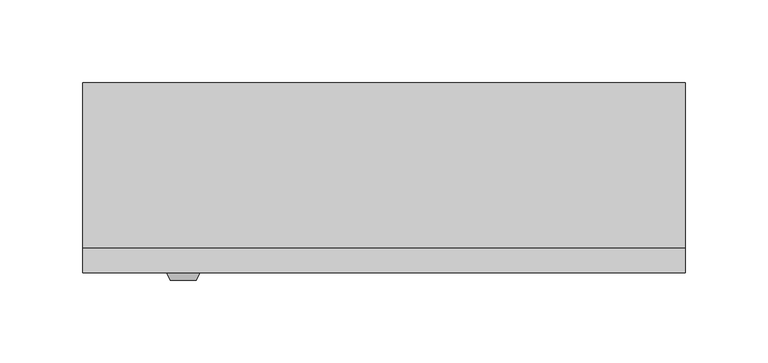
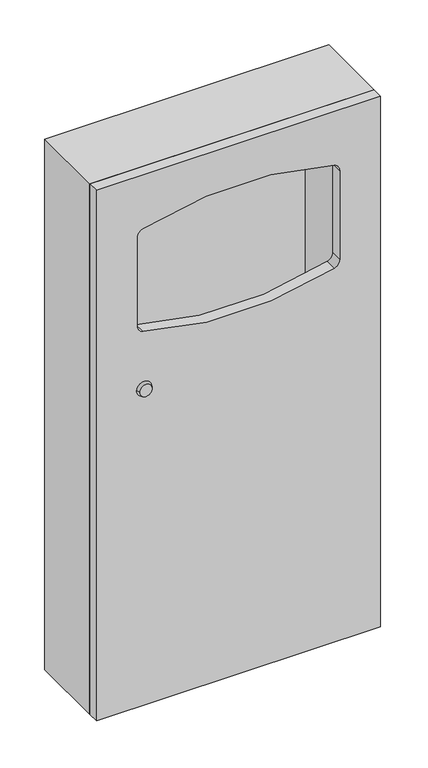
"""IFC4 building model written with IfcOpenShell, lengths in millimetres: proxy geometry, Waste_Metlam_Surface Mounted_9L : 365w x 115d x 720h (ML710R_SM_MK2)."""

from ifc_helpers import new_model, si_unit, point, frame, frame_2d, origin, place, context, project, spatial, polyline, circle_curve, trimmed, segment, composite_curve, outline, extrude, faceted_brep, source, transform, mapped, element, save
from ifc_brep_helpers import plane_surface, revolved_surface, advanced_brep


def specialty_equipment_d6a71a56(model_context):
    return source(origin(), model_context, "Body", "SolidModel", [
        faceted_brep([(180.5, -2.0, 1648.0), (-180.5, -2.0, 1648.0), (-180.5, -2.0, 932.0), (180.5, -2.0, 932.0), (-152.5, -2.0, 957.5), (-152.5, -2.0, 1622.5), (152.5, -2.0, 1622.5), (152.5, -2.0, 957.5), (150.5, -2.0, 1620.5), (-150.5, -2.0, 1620.5), (-150.5, -2.0, 959.5), (150.5, -2.0, 959.5), (182.5, 0.0, 1650.0), (182.5, 0.0, 930.0), (-182.5, 0.0, 930.0), (-182.5, 0.0, 1650.0), (-182.5, -100.0, 1650.0), (182.5, -100.0, 1650.0), (-182.5, -100.0, 930.0), (182.5, -100.0, 930.0), (-180.5, -100.0, 1648.0), (180.5, -100.0, 1648.0), (180.5, -100.0, 932.0), (-180.5, -100.0, 932.0), (-152.5, -100.0, 1622.5), (-152.5, -100.0, 957.5), (152.5, -100.0, 957.5), (152.5, -100.0, 1622.5), (-150.5, -100.0, 1620.5), (150.5, -100.0, 1620.5), (150.5, -100.0, 959.5), (-150.5, -100.0, 959.5)], [[[0, 1, 2, 3], [4, 5, 6, 7]], [[8, 9, 10, 11]], [[12, 13, 14, 15]], [[12, 15, 16, 17]], [[15, 14, 18, 16]], [[14, 13, 19, 18]], [[13, 12, 17, 19]], [[17, 16, 18, 19], [20, 21, 22, 23]], [[21, 20, 1, 0]], [[22, 21, 0, 3]], [[23, 22, 3, 2]], [[20, 23, 2, 1]], [[24, 25, 26, 27], [28, 29, 30, 31]], [[25, 24, 5, 4]], [[26, 25, 4, 7]], [[27, 26, 7, 6]], [[24, 27, 6, 5]], [[29, 28, 9, 8]], [[30, 29, 8, 11]], [[31, 30, 11, 10]], [[28, 31, 10, 9]]]),
        extrude(outline(polyline([(930.0, 182.5), (1650.0, 182.5), (1650.0, -182.5), (930.0, -182.5), (930.0, 182.5)]), holes=[composite_curve([segment(trimmed(circle_curve(frame_2d((1567.6002962, 120.0)), 10.0), [point((1577.1884689, 122.8402367))], [point((1567.6002962, 130.0))], True, "CARTESIAN"), True, "CONTINUOUS"), segment(polyline([(1567.6002962, 130.0), (1447.3997038, 130.0)]), True, "CONTINUOUS"), segment(trimmed(circle_curve(frame_2d((1447.3997038, 120.0)), 10.0), [point((1447.3997038, 130.0))], [point((1437.8115311, 122.8402367))], True, "CARTESIAN"), True, "CONTINUOUS"), segment(trimmed(circle_curve(frame_2d((1852.5, 0.0)), 432.5), [point((1437.8115311, 122.8402367))], [point((1437.8115311, -122.8402367))], True, "CARTESIAN"), True, "CONTINUOUS"), segment(trimmed(circle_curve(frame_2d((1447.3997038, -120.0)), 10.0), [point((1437.8115311, -122.8402367))], [point((1447.3997038, -130.0))], True, "CARTESIAN"), True, "CONTINUOUS"), segment(polyline([(1447.3997038, -130.0), (1567.6002962, -130.0)]), True, "CONTINUOUS"), segment(trimmed(circle_curve(frame_2d((1567.6002962, -120.0)), 10.0), [point((1567.6002962, -130.0))], [point((1577.1884689, -122.8402367))], True, "CARTESIAN"), True, "CONTINUOUS"), segment(trimmed(circle_curve(frame_2d((1162.5, 0.0)), 432.5), [point((1577.1884689, -122.8402367))], [point((1577.1884689, 122.8402367))], True, "CARTESIAN"), True, "CONTINUOUS")], self_intersect=False)]), frame((0.0, -115.0, 0.0), z_axis=(0.0, 1.0, 0.0), x_axis=(0.0, 0.0, 1.0)), (0.0, 0.0, 1.0), 15.0),
        advanced_brep(
        [(-129.5369825, -119.649141, 1360.0972849), (-113.5369825, -119.649141, 1360.0972849), (-131.5369825, -115.0, 1360.0972849), (-111.5369825, -115.0, 1360.0972849)],
        [
            (0, 1, circle_curve(frame((-121.5369825, -119.649141, 1360.0972849), z_axis=(0.0, -1.0, 0.0), x_axis=(-1.0, 0.0, 0.0)), 8.0)),
            (1, 0, circle_curve(frame((-121.5369825, -119.649141, 1360.0972849), z_axis=(0.0, -1.0, 0.0), x_axis=(1.0, 0.0, 0.0)), 8.0)),
            (2, 3, circle_curve(frame((-121.5369825, -115.0, 1360.0972849), z_axis=(0.0, 1.0, 0.0), x_axis=(1.0, 0.0, 0.0)), 10.0)),
            (3, 2, circle_curve(frame((-121.5369825, -115.0, 1360.0972849), z_axis=(0.0, 1.0, 0.0), x_axis=(-1.0, 0.0, 0.0)), 10.0)),
            (3, 1),
            (0, 2),
        ],
        [
            plane_surface(frame((-121.5369825, -119.649141, 1360.0972849), z_axis=(0.0, -1.0, 0.0), x_axis=(0.0, 0.0, -1.0))),
            plane_surface(frame((-121.5369825, -115.0, 1360.0972849), z_axis=(0.0, 1.0, 0.0), x_axis=(0.0, 0.0, -1.0))),
            revolved_surface(polyline([(-129.53698248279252, -119.649141, 1360.0972849), (-131.5369825, -115.0, 1360.0972849)]), (-121.5369825, -138.2457048, 1360.0972849), (0.0, 1.0, 0.0)),
            revolved_surface(polyline([(-113.53698251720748, -119.649141, 1360.0972849), (-111.5369825, -115.0, 1360.0972849)]), (-121.5369825, -138.2457048, 1360.0972849), (0.0, 1.0, 0.0)),
        ],
        [
            (0, [[1, 2]]),
            (1, [[3, 4]]),
            (2, [[-4, 5, -1, 6]]),
            (3, [[-3, -6, -2, -5]]),
        ],
    ),
    ])


if __name__ == "__main__":
    model = new_model("IFC4")
    model_context = context("Model", 3, world=origin())
    ifc_project = project(units=[si_unit("LENGTHUNIT", "METRE", prefix="MILLI")], contexts=[model_context])
    site = spatial("IfcSite", under=ifc_project)
    building = spatial("IfcBuilding", under=site)
    placement = place(None, origin())
    specialty_equipment_shape = specialty_equipment_d6a71a56(model_context)
    element("IfcBuildingElementProxy", 1, Name="Waste_Metlam_Surface Mounted_9L : 365w x 115d x 720h (ML710R_SM_MK2)", ObjectType="Waste_Metlam_Surface Mounted_9L : 365w x 115d x 720h (ML710R_SM_MK2)", at=placement, inside=building, context=model_context, shape_type="MappedRepresentation", body=[
        mapped(specialty_equipment_shape, transform((0.0, 0.0, 0.0), x_axis=(1.0, 0.0, 0.0), y_axis=(0.0, 1.0, 0.0), z_axis=(0.0, 0.0, 1.0))),
    ])
    save(model, "model.ifc")
